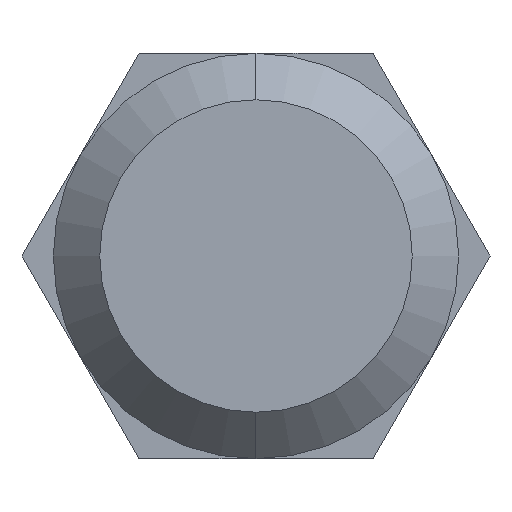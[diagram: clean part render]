
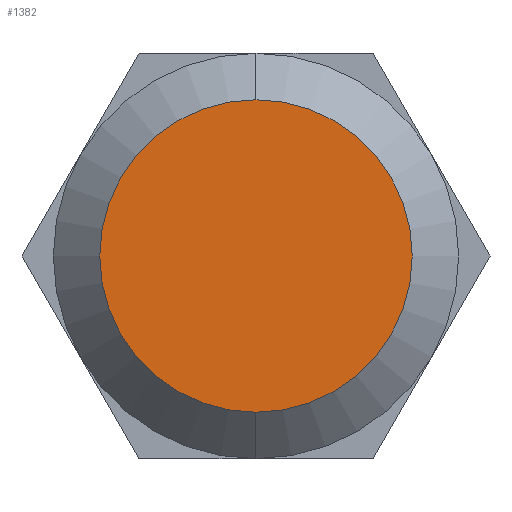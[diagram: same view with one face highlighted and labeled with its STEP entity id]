
A CAD part, left-side view. The second image highlights one B-rep face of the part: STEP entity #1382.
In plain terms, the highlighted planar face has unit normal (-1, 0, 0).
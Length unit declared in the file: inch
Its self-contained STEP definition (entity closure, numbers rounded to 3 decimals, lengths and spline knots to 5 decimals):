
#292 = CARTESIAN_POINT ( 'NONE',  ( -4.02838, 0.56949, -0.3373 ) ) ;
#298 = CARTESIAN_POINT ( 'NONE',  ( -4.02838, 0.56949, 0.3373 ) ) ;
#608 = PLANE ( 'NONE',  #1717 ) ;
#636 = DIRECTION ( 'NONE',  ( 0., 0., 1. ) ) ;
#640 = DIRECTION ( 'NONE',  ( -1., 0., 0. ) ) ;
#642 = CARTESIAN_POINT ( 'NONE',  ( -4.02838, 0.90679, 0. ) ) ;
#703 = EDGE_LOOP ( 'NONE', ( #704, #733 ) ) ;
#704 = ORIENTED_EDGE ( 'NONE', *, *, #1443, .F. ) ;
#733 = ORIENTED_EDGE ( 'NONE', *, *, #1494, .F. ) ;
#1000 = FACE_OUTER_BOUND ( 'NONE', #703, .T. ) ;
#1382 = ADVANCED_FACE ( 'NONE', ( #1000 ), #608, .T. ) ;
#1443 = EDGE_CURVE ( 'NONE', #3139, #3146, #1949, .T. ) ;
#1494 = EDGE_CURVE ( 'NONE', #3146, #3139, #2025, .T. ) ;
#1717 = AXIS2_PLACEMENT_3D ( 'NONE', #642, #640, #636 ) ;
#1769 = AXIS2_PLACEMENT_3D ( 'NONE', #2200, #2201, #2202 ) ;
#1782 = AXIS2_PLACEMENT_3D ( 'NONE', #2348, #2349, #2350 ) ;
#1949 = CIRCLE ( 'NONE', #1769, 0.3373 ) ;
#2025 = CIRCLE ( 'NONE', #1782, 0.3373 ) ;
#2200 = CARTESIAN_POINT ( 'NONE',  ( -4.02838, 0.56949, 0. ) ) ;
#2201 = DIRECTION ( 'NONE',  ( 1., 0., 0. ) ) ;
#2202 = DIRECTION ( 'NONE',  ( 0., 0., -1. ) ) ;
#2348 = CARTESIAN_POINT ( 'NONE',  ( -4.02838, 0.56949, 0. ) ) ;
#2349 = DIRECTION ( 'NONE',  ( 1., 0., 0. ) ) ;
#2350 = DIRECTION ( 'NONE',  ( 0., 0., -1. ) ) ;
#3139 = VERTEX_POINT ( 'NONE', #292 ) ;
#3146 = VERTEX_POINT ( 'NONE', #298 ) ;
